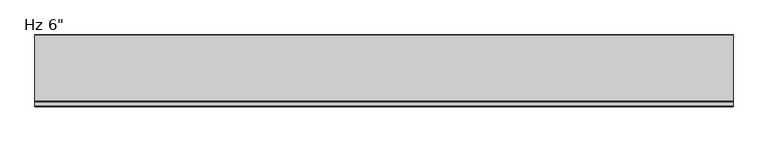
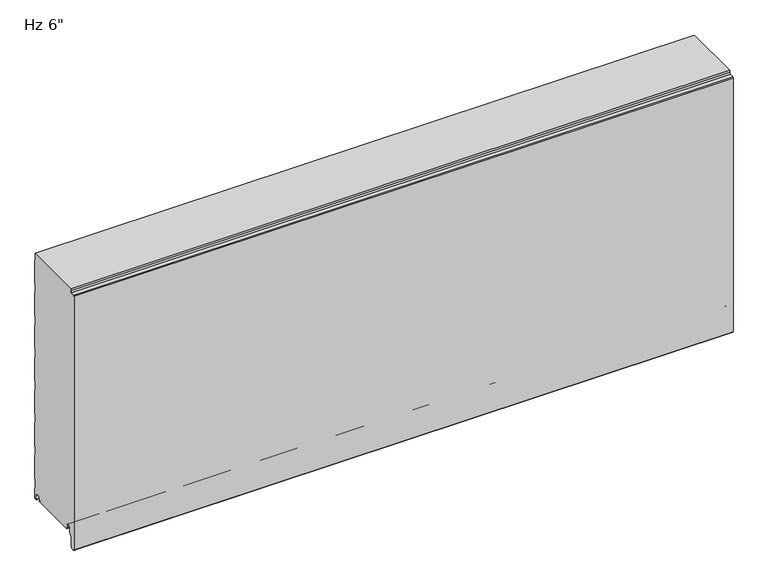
"""IFC4 building model written with IfcOpenShell, lengths in millimetres: plate geometry."""

from ifc_helpers import new_model, si_unit, frame, origin, place, context, project, spatial, polyline, circle_curve, source, transform, mapped, element, save
from ifc_brep_helpers import plane_surface, cylinder_surface, revolved_surface, advanced_brep


def plate_dd1b28fa(model_context):
    return source(origin(), model_context, "Body", "AdvancedBrep", [
        advanced_brep(
        [(-730.0, -124.0708959, 1.0316999), (-730.0, -122.9014212, 2.2328239), (-730.0, -122.9014212, 5.9912173), (-730.0, -124.2999001, 5.9912173), (-730.0, -124.2999001, 8.6903283), (-730.0, -127.6498954, 12.0403236), (-730.0, -132.0498866, 12.0403236), (-730.0, -135.3998819, 8.6903283), (-730.0, -135.3998819, -3.1205608), (-730.0, -135.8977988, -4.3226385), (-730.0, -141.3998699, -9.8247096), (-730.0, -141.3998699, -31.9198392), (-730.0, -143.6184719, -34.5765709), (-730.0, -148.6002927, -35.0125699), (-730.0, -151.3946177, -32.4521176), (-730.0, -151.4000209, 561.115622), (-730.0, -149.6149468, 563.0669057), (-730.0, -141.15397, 563.821161), (-730.0, -138.3906671, 566.9653654), (-730.0, -138.3906671, 571.2), (-730.0, -2.2002516, 571.2), (-730.0, -2.2002516, 555.8186019), (-730.0, -1.0000209, 554.4329689), (-730.0, -1.0000209, 500.3795535), (-730.0, -2.2002516, 498.9939206), (-730.0, -2.2002516, 479.6187543), (-730.0, -1.0000209, 478.2331213), (-730.0, -1.0000209, 424.1797059), (-730.0, -2.2002516, 422.794073), (-730.0, -2.2002516, 403.4189067), (-730.0, -1.0000209, 402.0332737), (-730.0, -1.0000209, 347.9798583), (-730.0, -2.2002516, 346.5942254), (-730.0, -2.2002516, 327.2190591), (-730.0, -1.0000209, 325.8334261), (-730.0, -1.0000209, 271.7800107), (-730.0, -2.2002516, 270.3943778), (-730.0, -2.2002516, 251.0192115), (-730.0, -1.0000209, 249.6335785), (-730.0, -1.0000209, 195.5801631), (-730.0, -2.2002516, 194.1945302), (-730.0, -2.2002516, 174.8193639), (-730.0, -1.0000209, 173.4337309), (-730.0, -1.0000209, 119.3803155), (-730.0, -2.2002516, 117.9946826), (-730.0, -2.2002516, 98.6195163), (-730.0, -1.0000209, 97.2338833), (-730.0, -1.0000209, 43.1804679), (-730.0, -2.2002516, 41.794835), (-730.0, -2.2002516, 22.4196687), (-730.0, -1.0000126, 21.034026), (-730.0, -1.0000126, -3.4662506), (-730.0, -5.2315599, -3.4662506), (-730.0, -7.001554, -1.6962564), (-730.0, -7.001554, 8.7237222), (-730.0, -10.3015499, 12.023718), (-730.0, -14.7015411, 12.023718), (-730.0, -18.0015368, 8.7237223), (-730.0, -18.0015368, 6.0315125), (-730.0, -19.0015314, 6.0315125), (-730.0, -19.0015314, 2.0313089), (-730.0, -18.0015401, 1.0313117), (-730.0, -19.0328517, 0.0), (-730.0, -123.039196, 0.0), (730.0, -124.0708959, 1.0316999), (730.0, -123.039196, 0.0), (730.0, -19.0328517, 0.0), (730.0, -18.0015401, 1.0313117), (730.0, -19.0015314, 2.0313089), (730.0, -19.0015314, 6.0315125), (730.0, -18.0015368, 6.0315125), (730.0, -18.0015368, 8.7237223), (730.0, -14.7015411, 12.023718), (730.0, -10.3015499, 12.023718), (730.0, -7.001554, 8.7237222), (730.0, -7.001554, -1.6962564), (730.0, -5.2315599, -3.4662506), (730.0, -1.0000126, -3.4662506), (730.0, -1.0000126, 21.034026), (730.0, -2.2002516, 22.4196687), (730.0, -2.2002516, 41.794835), (730.0, -1.0000209, 43.1804679), (730.0, -1.0000209, 97.2338833), (730.0, -2.2002516, 98.6195163), (730.0, -2.2002516, 117.9946826), (730.0, -1.0000209, 119.3803155), (730.0, -1.0000209, 173.4337309), (730.0, -2.2002516, 174.8193639), (730.0, -2.2002516, 194.1945302), (730.0, -1.0000209, 195.5801631), (730.0, -1.0000209, 249.6335785), (730.0, -2.2002516, 251.0192115), (730.0, -2.2002516, 270.3943778), (730.0, -1.0000209, 271.7800107), (730.0, -1.0000209, 325.8334261), (730.0, -2.2002516, 327.2190591), (730.0, -2.2002516, 346.5942254), (730.0, -1.0000209, 347.9798583), (730.0, -1.0000209, 402.0332737), (730.0, -2.2002516, 403.4189067), (730.0, -2.2002516, 422.794073), (730.0, -1.0000209, 424.1797059), (730.0, -1.0000209, 478.2331213), (730.0, -2.2002516, 479.6187543), (730.0, -2.2002516, 498.9939206), (730.0, -1.0000209, 500.3795535), (730.0, -1.0000209, 554.4329689), (730.0, -2.2002516, 555.8186019), (730.0, -2.2002516, 571.2), (730.0, -138.3906671, 571.2), (730.0, -138.3906671, 566.9653654), (730.0, -141.15397, 563.821161), (730.0, -149.6149468, 563.0669057), (730.0, -151.4000209, 561.115622), (730.0, -151.4000209, -32.4521176), (730.0, -148.6002927, -35.0125699), (730.0, -143.6184719, -34.5765709), (730.0, -141.3998699, -31.9198392), (730.0, -141.3998699, -9.8247096), (730.0, -135.8977988, -4.3226385), (730.0, -135.3998819, -3.1205608), (730.0, -135.3998819, 8.6903283), (730.0, -132.0498866, 12.0403236), (730.0, -127.6498954, 12.0403236), (730.0, -124.2999001, 8.6903283), (730.0, -124.2999001, 5.9912173), (730.0, -122.9014212, 5.9912173), (730.0, -122.9014212, 2.2328239)],
        [
            (0, 1, circle_curve(frame((-730.0, -124.1014178, 2.2313092), z_axis=(1.0, 0.0, 0.0), x_axis=(0.0, 0.0, -1.0)), 1.1999976)),
            (1, 2),
            (2, 3),
            (3, 4),
            (4, 5, circle_curve(frame((-730.0, -127.6498954, 8.6903283), z_axis=(1.0, 0.0, 0.0), x_axis=(0.0, 0.0, -1.0)), 3.3499953)),
            (5, 6),
            (6, 7, circle_curve(frame((-730.0, -132.0498866, 8.6903283), z_axis=(1.0, 0.0, 0.0), x_axis=(0.0, 0.0, -1.0)), 3.3499953)),
            (7, 8),
            (8, 9, circle_curve(frame((-730.0, -137.0998765, -3.1205608), z_axis=(-1.0, 0.0, 0.0), x_axis=(0.0, 0.0, -1.0)), 1.6999946)),
            (9, 10),
            (10, 11),
            (11, 12, circle_curve(frame((-730.0, -144.0998625, -31.9198392), z_axis=(-1.0, 0.0, 0.0), x_axis=(0.0, 0.0, -1.0)), 2.6999926)),
            (12, 13),
            (13, 14, circle_curve(frame((-730.0, -148.8243784, -32.4521176), z_axis=(-1.0, 0.0, 0.0), x_axis=(0.0, 0.0, -1.0)), 2.5702393)),
            (14, 15),
            (15, 16, circle_curve(frame((-730.0, -149.4409993, 561.115622), z_axis=(-1.0, 0.0, 0.0), x_axis=(0.0, 0.0, -1.0)), 1.9590216)),
            (16, 17),
            (17, 18, circle_curve(frame((-730.0, -141.418053, 566.8396267), z_axis=(1.0, 0.0, 0.0), x_axis=(0.0, 0.0, -1.0)), 3.0299959)),
            (18, 19),
            (19, 20),
            (20, 21),
            (21, 22),
            (22, 23),
            (23, 24),
            (24, 25),
            (25, 26),
            (26, 27),
            (27, 28),
            (28, 29),
            (29, 30),
            (30, 31),
            (31, 32),
            (32, 33),
            (33, 34),
            (34, 35),
            (35, 36),
            (36, 37),
            (37, 38),
            (38, 39),
            (39, 40),
            (40, 41),
            (41, 42),
            (42, 43),
            (43, 44),
            (44, 45),
            (45, 46),
            (46, 47),
            (47, 48),
            (48, 49),
            (49, 50),
            (50, 51),
            (51, 52),
            (52, 53, circle_curve(frame((-730.0, -5.2315599, -1.6962564), z_axis=(-1.0, 0.0, 0.0), x_axis=(0.0, 0.0, 1.0)), 1.7699942)),
            (53, 54),
            (54, 55, circle_curve(frame((-730.0, -10.3015499, 8.7237222), z_axis=(1.0, 0.0, 0.0), x_axis=(0.0, 0.0, 1.0)), 3.2999959)),
            (55, 56),
            (56, 57, circle_curve(frame((-730.0, -14.7015411, 8.7237223), z_axis=(1.0, 0.0, 0.0), x_axis=(0.0, 0.0, 1.0)), 3.2999957)),
            (57, 58),
            (58, 59),
            (59, 60),
            (60, 61, circle_curve(frame((-730.0, -18.0015342, 2.0313089), z_axis=(1.0, 0.0, 0.0), x_axis=(0.0, 0.0, 1.0)), 0.9999972)),
            (61, 62),
            (62, 63),
            (63, 0),
            (64, 65),
            (65, 66),
            (66, 67),
            (67, 68, circle_curve(frame((730.0, -18.0015342, 2.0313089), z_axis=(-1.0, 0.0, 0.0), x_axis=(0.0, 0.0, 1.0)), 0.9999972)),
            (68, 69),
            (69, 70),
            (70, 71),
            (71, 72, circle_curve(frame((730.0, -14.7015411, 8.7237223), z_axis=(-1.0, 0.0, 0.0), x_axis=(0.0, 0.0, 1.0)), 3.2999957)),
            (72, 73),
            (73, 74, circle_curve(frame((730.0, -10.3015499, 8.7237222), z_axis=(-1.0, 0.0, 0.0), x_axis=(0.0, 0.0, 1.0)), 3.2999959)),
            (74, 75),
            (75, 76, circle_curve(frame((730.0, -5.2315599, -1.6962564), z_axis=(1.0, 0.0, 0.0), x_axis=(0.0, 0.0, 1.0)), 1.7699942)),
            (76, 77),
            (77, 78),
            (78, 79),
            (79, 80),
            (80, 81),
            (81, 82),
            (82, 83),
            (83, 84),
            (84, 85),
            (85, 86),
            (86, 87),
            (87, 88),
            (88, 89),
            (89, 90),
            (90, 91),
            (91, 92),
            (92, 93),
            (93, 94),
            (94, 95),
            (95, 96),
            (96, 97),
            (97, 98),
            (98, 99),
            (99, 100),
            (100, 101),
            (101, 102),
            (102, 103),
            (103, 104),
            (104, 105),
            (105, 106),
            (106, 107),
            (107, 108),
            (108, 109),
            (109, 110),
            (110, 111, circle_curve(frame((730.0, -141.418053, 566.8396267), z_axis=(-1.0, 0.0, 0.0), x_axis=(0.0, 0.0, -1.0)), 3.0299959)),
            (111, 112),
            (112, 113, circle_curve(frame((730.0, -149.4409993, 561.115622), z_axis=(1.0, 0.0, 0.0), x_axis=(0.0, 0.0, -1.0)), 1.9590216)),
            (113, 114),
            (114, 115, circle_curve(frame((730.0, -148.8243784, -32.4521176), z_axis=(1.0, 0.0, 0.0), x_axis=(0.0, 0.0, -1.0)), 2.5702393)),
            (115, 116),
            (116, 117, circle_curve(frame((730.0, -144.0998625, -31.9198392), z_axis=(1.0, 0.0, 0.0), x_axis=(0.0, 0.0, -1.0)), 2.6999926)),
            (117, 118),
            (118, 119),
            (119, 120, circle_curve(frame((730.0, -137.0998765, -3.1205608), z_axis=(1.0, 0.0, 0.0), x_axis=(0.0, 0.0, -1.0)), 1.6999946)),
            (120, 121),
            (121, 122, circle_curve(frame((730.0, -132.0498866, 8.6903283), z_axis=(-1.0, 0.0, 0.0), x_axis=(0.0, 0.0, -1.0)), 3.3499953)),
            (122, 123),
            (123, 124, circle_curve(frame((730.0, -127.6498954, 8.6903283), z_axis=(-1.0, 0.0, 0.0), x_axis=(0.0, 0.0, -1.0)), 3.3499953)),
            (124, 125),
            (125, 126),
            (126, 127),
            (127, 64, circle_curve(frame((730.0, -124.1014178, 2.2313092), z_axis=(-1.0, 0.0, 0.0), x_axis=(0.0, 0.0, -1.0)), 1.1999976)),
            (63, 65),
            (64, 0),
            (62, 66),
            (14, 114),
            (113, 15),
            (13, 115),
            (12, 116),
            (11, 117),
            (10, 118),
            (9, 119),
            (8, 120),
            (7, 121),
            (6, 122),
            (5, 123),
            (4, 124),
            (3, 125),
            (2, 126),
            (1, 127),
            (61, 67),
            (60, 68),
            (59, 69),
            (58, 70),
            (57, 71),
            (56, 72),
            (55, 73),
            (54, 74),
            (53, 75),
            (52, 76),
            (51, 77),
            (49, 79),
            (78, 50),
            (48, 80),
            (47, 81),
            (46, 82),
            (45, 83),
            (44, 84),
            (43, 85),
            (42, 86),
            (41, 87),
            (40, 88),
            (39, 89),
            (38, 90),
            (37, 91),
            (36, 92),
            (35, 93),
            (34, 94),
            (33, 95),
            (32, 96),
            (31, 97),
            (30, 98),
            (19, 109),
            (108, 20),
            (18, 110),
            (17, 111),
            (16, 112),
            (29, 99),
            (28, 100),
            (27, 101),
            (26, 102),
            (25, 103),
            (24, 104),
            (23, 105),
            (22, 106),
            (21, 107),
        ],
        [
            plane_surface(frame((-730.0, -151.4000209, 304.8), z_axis=(-1.0, 0.0, 0.0), x_axis=(0.0, -1.0, 0.0))),
            plane_surface(frame((730.0, -151.4000209, 304.8), z_axis=(1.0, 0.0, 0.0), x_axis=(0.0, -1.0, 0.0))),
            plane_surface(frame((-730.0, -124.0708959, 1.0316999), z_axis=(0.0, -0.7071067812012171, -0.707106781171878), x_axis=(1.0, 0.0, 0.0))),
            plane_surface(frame((-730.0, -123.039196, 0.0), z_axis=(0.0, 0.0, -1.0), x_axis=(1.0, 0.0, 0.0))),
            plane_surface(frame((-730.0, -151.4000209, 561.115622), z_axis=(0.0, -1.0, 0.0), x_axis=(1.0, 0.0, 0.0))),
            cylinder_surface(frame((-730.0, -148.8243784, -32.4521176), z_axis=(-1.0, 0.0, 0.0), x_axis=(0.0, 0.0, -1.0)), 2.5702393),
            plane_surface(frame((-730.0, -148.6002927, -35.0125699), z_axis=(0.0, 0.08718474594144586, -0.9961921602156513), x_axis=(1.0, 0.0, 0.0))),
            cylinder_surface(frame((-730.0, -144.0998625, -31.9198392), z_axis=(-1.0, 0.0, 0.0), x_axis=(0.0, 0.0, -1.0)), 2.6999926),
            plane_surface(frame((-730.0, -141.3998699, -31.9198392), z_axis=(0.0, 1.0, 0.0), x_axis=(1.0, 0.0, 0.0))),
            plane_surface(frame((-730.0, -141.3998699, -9.8247096), z_axis=(0.0, 0.7071067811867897, -0.7071067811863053), x_axis=(1.0, 0.0, 0.0))),
            cylinder_surface(frame((-730.0, -137.0998765, -3.1205608), z_axis=(-1.0, 0.0, 0.0), x_axis=(0.0, 0.0, -1.0)), 1.6999946),
            plane_surface(frame((-730.0, -135.3998819, -3.1205608), z_axis=(0.0, 1.0, 0.0), x_axis=(1.0, 0.0, 0.0))),
            revolved_surface(polyline([(730.0, -132.0498866, 5.340332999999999), (-730.0, -132.0498866, 5.340332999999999)]), (-730.0, -132.0498866, 8.6903283), (1.0, 0.0, 0.0)),
            plane_surface(frame((-730.0, -132.0498866, 12.0403236), z_axis=(0.0, 0.0, -1.0), x_axis=(1.0, 0.0, 0.0))),
            revolved_surface(polyline([(730.0, -127.6498954, 5.340332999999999), (-730.0, -127.6498954, 5.340332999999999)]), (-730.0, -127.6498954, 8.6903283), (1.0, 0.0, 0.0)),
            plane_surface(frame((-730.0, -124.2999001, 8.6903283), z_axis=(0.0, -1.0, 0.0), x_axis=(1.0, 0.0, 0.0))),
            plane_surface(frame((-730.0, -124.2999001, 5.9912173), z_axis=(0.0, 0.0, -1.0), x_axis=(1.0, 0.0, 0.0))),
            plane_surface(frame((-730.0, -122.9014212, 5.9912173), z_axis=(0.0, -1.0, 0.0), x_axis=(1.0, 0.0, 0.0))),
            revolved_surface(polyline([(730.0, -124.1014178, 1.0313116), (-730.0, -124.1014178, 1.0313116)]), (-730.0, -124.1014178, 2.2313092), (1.0, 0.0, 0.0)),
            plane_surface(frame((-730.0, -19.0328517, 0.0), z_axis=(0.0, 0.7071067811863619, -0.7071067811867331), x_axis=(1.0, 0.0, 0.0))),
            revolved_surface(polyline([(730.0, -18.0015342, 3.0313061), (-730.0, -18.0015342, 3.0313061)]), (-730.0, -18.0015342, 2.0313089), (1.0, 0.0, 0.0)),
            plane_surface(frame((-730.0, -19.0015314, 2.0313089), z_axis=(0.0, 1.0, 0.0), x_axis=(1.0, 0.0, 0.0))),
            plane_surface(frame((-730.0, -19.0015314, 6.0315125), z_axis=(0.0, 0.0, -1.0), x_axis=(1.0, 0.0, 0.0))),
            plane_surface(frame((-730.0, -18.0015368, 6.0315125), z_axis=(0.0, 1.0, 0.0), x_axis=(1.0, 0.0, 0.0))),
            revolved_surface(polyline([(730.0, -14.7015411, 12.023718), (-730.0, -14.7015411, 12.023718)]), (-730.0, -14.7015411, 8.7237223), (1.0, 0.0, 0.0)),
            plane_surface(frame((-730.0, -14.7015411, 12.023718), z_axis=(0.0, 0.0, -1.0), x_axis=(1.0, 0.0, 0.0))),
            revolved_surface(polyline([(730.0, -10.3015499, 12.0237181), (-730.0, -10.3015499, 12.0237181)]), (-730.0, -10.3015499, 8.7237222), (1.0, 0.0, 0.0)),
            plane_surface(frame((-730.0, -7.001554, 8.7237222), z_axis=(0.0, -1.0, 0.0), x_axis=(1.0, 0.0, 0.0))),
            cylinder_surface(frame((-730.0, -5.2315599, -1.6962564), z_axis=(-1.0, 0.0, 0.0), x_axis=(0.0, 0.0, 1.0)), 1.7699942),
            plane_surface(frame((-730.0, -5.2315599, -3.4662506), z_axis=(0.0, 0.0, -1.0), x_axis=(1.0, 0.0, 0.0))),
            plane_surface(frame((-730.0, -1.0000126, 21.034026), z_axis=(0.0, 0.7558648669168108, 0.6547276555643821), x_axis=(1.0, 0.0, 0.0))),
            plane_surface(frame((-730.0, -1.0000126, -3.4662506), z_axis=(0.0, 1.0, 0.0), x_axis=(1.0, 0.0, 0.0))),
            plane_surface(frame((-730.0, -2.2002516, 22.4196687), z_axis=(0.0, 1.0, 0.0), x_axis=(1.0, 0.0, 0.0))),
            plane_surface(frame((-730.0, -2.2002516, 41.794835), z_axis=(0.0, 0.7558648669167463, -0.6547276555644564), x_axis=(1.0, 0.0, 0.0))),
            plane_surface(frame((-730.0, -1.0000209, 43.1804679), z_axis=(0.0, 1.0, 0.0), x_axis=(1.0, 0.0, 0.0))),
            plane_surface(frame((-730.0, -1.0000209, 97.2338833), z_axis=(0.0, 0.7558648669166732, 0.6547276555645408), x_axis=(1.0, 0.0, 0.0))),
            plane_surface(frame((-730.0, -2.2002516, 98.6195163), z_axis=(0.0, 1.0, 0.0), x_axis=(1.0, 0.0, 0.0))),
            plane_surface(frame((-730.0, -2.2002516, 117.9946826), z_axis=(0.0, 0.7558648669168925, -0.6547276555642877), x_axis=(1.0, 0.0, 0.0))),
            plane_surface(frame((-730.0, -1.0000209, 119.3803155), z_axis=(0.0, 1.0, 0.0), x_axis=(1.0, 0.0, 0.0))),
            plane_surface(frame((-730.0, -1.0000209, 173.4337309), z_axis=(0.0, 0.7558648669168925, 0.6547276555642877), x_axis=(1.0, 0.0, 0.0))),
            plane_surface(frame((-730.0, -2.2002516, 174.8193639), z_axis=(0.0, 1.0, 0.0), x_axis=(1.0, 0.0, 0.0))),
            plane_surface(frame((-730.0, -2.2002516, 194.1945302), z_axis=(0.0, 0.7558648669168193, -0.6547276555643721), x_axis=(1.0, 0.0, 0.0))),
            plane_surface(frame((-730.0, -1.0000209, 195.5801631), z_axis=(0.0, 1.0, 0.0), x_axis=(1.0, 0.0, 0.0))),
            plane_surface(frame((-730.0, -1.0000209, 249.6335785), z_axis=(0.0, 0.7558648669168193, 0.6547276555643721), x_axis=(1.0, 0.0, 0.0))),
            plane_surface(frame((-730.0, -2.2002516, 251.0192115), z_axis=(0.0, 1.0, 0.0), x_axis=(1.0, 0.0, 0.0))),
            plane_surface(frame((-730.0, -2.2002516, 270.3943778), z_axis=(0.0, 0.7558648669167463, -0.6547276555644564), x_axis=(1.0, 0.0, 0.0))),
            plane_surface(frame((-730.0, -1.0000209, 271.7800107), z_axis=(0.0, 1.0, 0.0), x_axis=(1.0, 0.0, 0.0))),
            plane_surface(frame((-730.0, -1.0000209, 325.8334261), z_axis=(0.0, 0.7558648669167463, 0.6547276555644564), x_axis=(1.0, 0.0, 0.0))),
            plane_surface(frame((-730.0, -2.2002516, 327.2190591), z_axis=(0.0, 1.0, 0.0), x_axis=(1.0, 0.0, 0.0))),
            plane_surface(frame((-730.0, -2.2002516, 346.5942254), z_axis=(0.0, 0.7558648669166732, -0.6547276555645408), x_axis=(1.0, 0.0, 0.0))),
            plane_surface(frame((-730.0, -1.0000209, 347.9798583), z_axis=(0.0, 1.0, 0.0), x_axis=(1.0, 0.0, 0.0))),
            plane_surface(frame((730.0, 9.9999791, 571.2), z_axis=(0.0, 0.0, 1.0), x_axis=(-1.0, 0.0, 0.0))),
            plane_surface(frame((-730.0, -138.3906671, 577.0583308), z_axis=(0.0, -1.0, 0.0), x_axis=(1.0, 0.0, 0.0))),
            revolved_surface(polyline([(730.0, -141.418053, 563.8096308), (-730.0, -141.418053, 563.8096308)]), (-730.0, -141.418053, 566.8396267), (1.0, 0.0, 0.0)),
            plane_surface(frame((-730.0, -141.15397, 563.821161), z_axis=(0.0, -0.08879306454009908, 0.9960500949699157), x_axis=(1.0, 0.0, 0.0))),
            cylinder_surface(frame((-730.0, -149.4409993, 561.115622), z_axis=(-1.0, 0.0, 0.0), x_axis=(0.0, 0.0, -1.0)), 1.9590216),
            plane_surface(frame((-730.0, -1.0000209, 402.0332737), z_axis=(0.0, 0.7558648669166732, 0.6547276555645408), x_axis=(1.0, 0.0, 0.0))),
            plane_surface(frame((-730.0, -2.2002516, 403.4189067), z_axis=(0.0, 1.0, 0.0), x_axis=(1.0, 0.0, 0.0))),
            plane_surface(frame((-730.0, -2.2002516, 422.794073), z_axis=(0.0, 0.755864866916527, -0.6547276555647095), x_axis=(1.0, 0.0, 0.0))),
            plane_surface(frame((-730.0, -1.0000209, 424.1797059), z_axis=(0.0, 1.0, 0.0), x_axis=(1.0, 0.0, 0.0))),
            plane_surface(frame((-730.0, -1.0000209, 478.2331213), z_axis=(0.0, 0.755864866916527, 0.6547276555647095), x_axis=(1.0, 0.0, 0.0))),
            plane_surface(frame((-730.0, -2.2002516, 479.6187543), z_axis=(0.0, 1.0, 0.0), x_axis=(1.0, 0.0, 0.0))),
            plane_surface(frame((-730.0, -2.2002516, 498.9939206), z_axis=(0.0, 0.755864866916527, -0.6547276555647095), x_axis=(1.0, 0.0, 0.0))),
            plane_surface(frame((-730.0, -1.0000209, 500.3795535), z_axis=(0.0, 1.0, 0.0), x_axis=(1.0, 0.0, 0.0))),
            plane_surface(frame((-730.0, -1.0000209, 554.4329689), z_axis=(0.0, 0.755864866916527, 0.6547276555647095), x_axis=(1.0, 0.0, 0.0))),
            plane_surface(frame((-730.0, -2.2002516, 555.8186019), z_axis=(0.0, 1.0, 0.0), x_axis=(1.0, 0.0, 0.0))),
        ],
        [
            (0, [[1, 2, 3, 4, 5, 6, 7, 8, 9, 10, 11, 12, 13, 14, 15, 16, 17, 18, 19, 20, 21, 22, 23, 24, 25, 26, 27, 28, 29, 30, 31, 32, 33, 34, 35, 36, 37, 38, 39, 40, 41, 42, 43, 44, 45, 46, 47, 48, 49, 50, 51, 52, 53, 54, 55, 56, 57, 58, 59, 60, 61, 62, 63, 64]]),
            (1, [[65, 66, 67, 68, 69, 70, 71, 72, 73, 74, 75, 76, 77, 78, 79, 80, 81, 82, 83, 84, 85, 86, 87, 88, 89, 90, 91, 92, 93, 94, 95, 96, 97, 98, 99, 100, 101, 102, 103, 104, 105, 106, 107, 108, 109, 110, 111, 112, 113, 114, 115, 116, 117, 118, 119, 120, 121, 122, 123, 124, 125, 126, 127, 128]]),
            (2, [[129, -65, 130, -64]]),
            (3, [[-63, 131, -66, -129]]),
            (4, [[132, -114, 133, -15]]),
            (5, [[134, -115, -132, -14]]),
            (6, [[135, -116, -134, -13]]),
            (7, [[136, -117, -135, -12]]),
            (8, [[137, -118, -136, -11]]),
            (9, [[138, -119, -137, -10]]),
            (10, [[139, -120, -138, -9]]),
            (11, [[140, -121, -139, -8]]),
            (12, [[141, -122, -140, -7]]),
            (13, [[142, -123, -141, -6]]),
            (14, [[143, -124, -142, -5]]),
            (15, [[144, -125, -143, -4]]),
            (16, [[145, -126, -144, -3]]),
            (17, [[146, -127, -145, -2]]),
            (18, [[-130, -128, -146, -1]]),
            (19, [[147, -67, -131, -62]]),
            (20, [[148, -68, -147, -61]]),
            (21, [[149, -69, -148, -60]]),
            (22, [[150, -70, -149, -59]]),
            (23, [[151, -71, -150, -58]]),
            (24, [[152, -72, -151, -57]]),
            (25, [[153, -73, -152, -56]]),
            (26, [[154, -74, -153, -55]]),
            (27, [[155, -75, -154, -54]]),
            (28, [[156, -76, -155, -53]]),
            (29, [[157, -77, -156, -52]]),
            (30, [[158, -79, 159, -50]]),
            (31, [[-159, -78, -157, -51]]),
            (32, [[160, -80, -158, -49]]),
            (33, [[161, -81, -160, -48]]),
            (34, [[162, -82, -161, -47]]),
            (35, [[163, -83, -162, -46]]),
            (36, [[164, -84, -163, -45]]),
            (37, [[165, -85, -164, -44]]),
            (38, [[166, -86, -165, -43]]),
            (39, [[167, -87, -166, -42]]),
            (40, [[168, -88, -167, -41]]),
            (41, [[169, -89, -168, -40]]),
            (42, [[170, -90, -169, -39]]),
            (43, [[171, -91, -170, -38]]),
            (44, [[172, -92, -171, -37]]),
            (45, [[173, -93, -172, -36]]),
            (46, [[174, -94, -173, -35]]),
            (47, [[175, -95, -174, -34]]),
            (48, [[176, -96, -175, -33]]),
            (49, [[177, -97, -176, -32]]),
            (50, [[178, -98, -177, -31]]),
            (51, [[179, -109, 180, -20]]),
            (52, [[-110, -179, -19, 181]]),
            (53, [[182, -111, -181, -18]]),
            (54, [[183, -112, -182, -17]]),
            (55, [[-133, -113, -183, -16]]),
            (56, [[184, -99, -178, -30]]),
            (57, [[185, -100, -184, -29]]),
            (58, [[186, -101, -185, -28]]),
            (59, [[187, -102, -186, -27]]),
            (60, [[188, -103, -187, -26]]),
            (61, [[189, -104, -188, -25]]),
            (62, [[190, -105, -189, -24]]),
            (63, [[191, -106, -190, -23]]),
            (64, [[192, -107, -191, -22]]),
            (65, [[-21, -180, -108, -192]]),
        ],
    ),
    ])


if __name__ == "__main__":
    model = new_model("IFC4")
    model_context = context("Model", 3, world=origin())
    ifc_project = project(units=[si_unit("LENGTHUNIT", "METRE", prefix="MILLI")], contexts=[model_context])
    site = spatial("IfcSite", under=ifc_project)
    building = spatial("IfcBuilding", under=site)
    placement = place(None, origin())
    plate_shape = plate_dd1b28fa(model_context)
    element("IfcPlate", 1, ObjectType="KIP-24-Karrier-KP-R19-CP-Hz-FL3-8in_SL : Hz 6\"", at=placement, inside=building, context=model_context, shape_type="MappedRepresentation", body=[
        mapped(plate_shape, transform((0.0, 0.0, 0.0), x_axis=(1.0, 0.0, 0.0), y_axis=(0.0, 1.0, 0.0), z_axis=(0.0, 0.0, 1.0))),
    ])
    save(model, "model.ifc")
